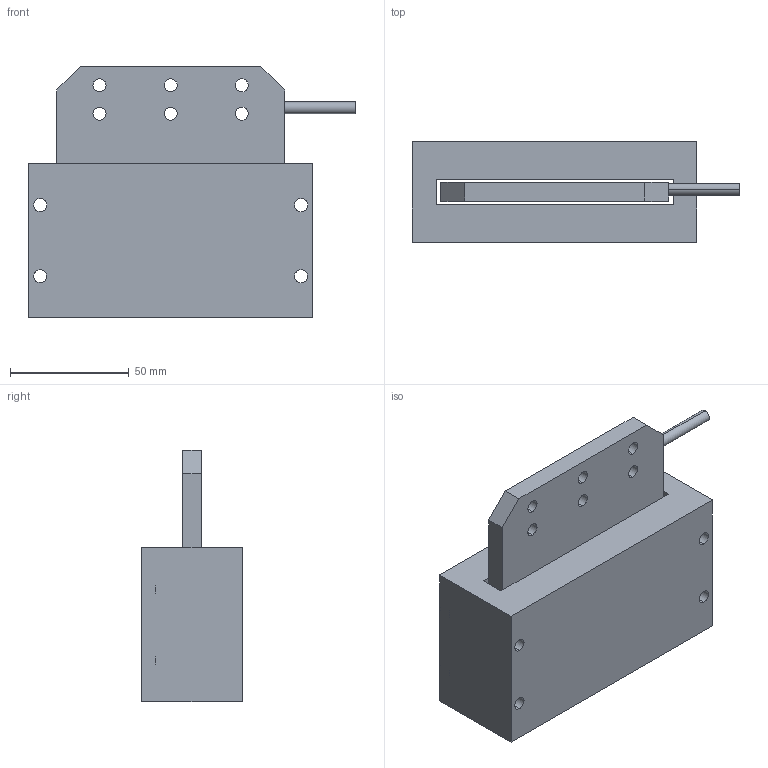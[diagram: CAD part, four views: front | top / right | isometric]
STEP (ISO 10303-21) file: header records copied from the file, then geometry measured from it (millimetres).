
FILE_DESCRIPTION (( 'STEP AP214' ), '1' );
FILE_NAME ('FVP-U5-15蚾饜极.STEP', '2021-12-14T02:44:55', ( 'Microsoft' ), ( 'Microsoft' ), 'SwSTEP 2.0', 'SolidWorks 2016', '' );
FILE_SCHEMA (( 'AUTOMOTIVE_DESIGN' ));
Length unit declared in the file: millimetre
Products named in the file (3): FVP-U5-15隅赽; FVP-U5-15蚾饜极; FVP-U5-15雄赽
Assembly tree (2 placements, depth 2):
  FVP-U5-15蚾饜极
    FVP-U5-15隅赽
    FVP-U5-15雄赽
Bounding box: 138 x 42.5 x 106 mm (x, y, z)
Volume: 328830.2 mm3; surface area: 68491.5 mm2
Topology: 2 solids, 5 shells, 75 faces, 176 edges, 116 vertices
Faces by surface type: plane 41, cylinder 34
Entity records: 2314 total; most frequent: DIRECTION 404, CARTESIAN_POINT 372, ORIENTED_EDGE 352, EDGE_CURVE 176, AXIS2_PLACEMENT_3D 148, VERTEX_POINT 116, LINE 108, VECTOR 108
